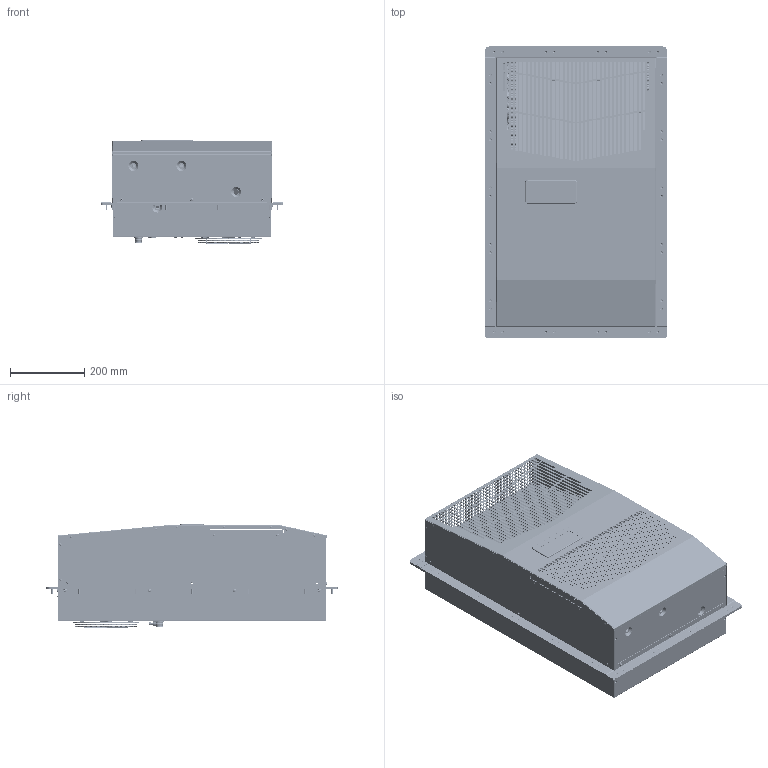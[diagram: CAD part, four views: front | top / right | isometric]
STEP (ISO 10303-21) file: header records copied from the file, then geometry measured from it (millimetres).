
FILE_DESCRIPTION (( 'STEP AP203' ), '1' );
FILE_NAME ('g280426g101.STEP', '2013-04-11T20:15:02', ( 'User' ), ( 'Pentair Inc' ), 'SwSTEP 2.0', 'SolidWorks 2010', '' );
FILE_SCHEMA (( 'CONFIG_CONTROL_DESIGN' ));
Products named in the file (46): g280426g101; 89081830; 89101704; 10-1061-16; 89092464; 10-1002-455; 38-2023-12; 89059130; 89081519; 89059134; 89081520; H60832006EB; 89059127; 89081518; 10-1014-201; 89059345_CR-PHMS 0.19-24x0.375x0.375-N; 87558055_87558055; 89078940; 89101701_as installed; 89101702_as installed; 10-1014-105; 89078960; 28-6010-00; 89100016; 89100017; 89100018; 89100019; 89098953; 89098952; 10-1097-03_AS USED; 89050160; 10-1014-269_87547883; 10-1015-97_Internal Tooth LW Type A-0.19; 89096883; 10-1131-10; 89051206; 10-1091-121; 10-1014-34; 10-1002-266; 28-6221-00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
Assembly tree (134 placements, depth 3):
  g280426g101
    10-1014-105  x3
    10-1014-34  x24
    89101704  x2
    87558055_87558055  x4
    28-6010-00
    10-1014-269_87547883  x2
    89092464  x2
    89059345_CR-PHMS 0.19-24x0.375x0.375-N  x20
    05-2001-195
    10-1061-16
    89081830
    89059470_as installed
    89100016
      10-1097-03_AS USED  x22
      89100018
      89100019
      89098953
      89098952
      89100017
    89051206
    13-1014-02
    89078960
    89078940
    10-1131-10
    28-6221-00
    89059127  x2
      10-1014-201
      89081518
    89101701_as installed
    89096883
    89100929
    38-2023-12
    89101701_as installed
    10-1015-97_Internal Tooth LW Type A-0.19  x3
    10-1002-266
    10-1091-121
    89101702_as installed
    89059130
      10-1014-201  x4
      H60832006EB  x2
      89081519
    89050160
    10-1002-455
    89101702_as installed
    89059134
      H60832006EB  x2
      10-1014-201  x4
      89081520
Bounding box: 492.76 x 786.43 x 281.12 mm (x, y, z)
Volume: 14210617.9 mm3; surface area: 5178967.2 mm2
Topology: 165 solids, 165 shells, 14813 faces, 38823 edges, 24565 vertices
Faces by surface type: plane 9136, cylinder 2860, bspline 969, torus 889, cone 735, sphere 224
Entity records: 298848 total; most frequent: CARTESIAN_POINT 75706, ORIENTED_EDGE 45382, DIRECTION 43285, EDGE_CURVE 22691, LINE 16375, VECTOR 16375, VERTEX_POINT 14625, AXIS2_PLACEMENT_3D 13455
